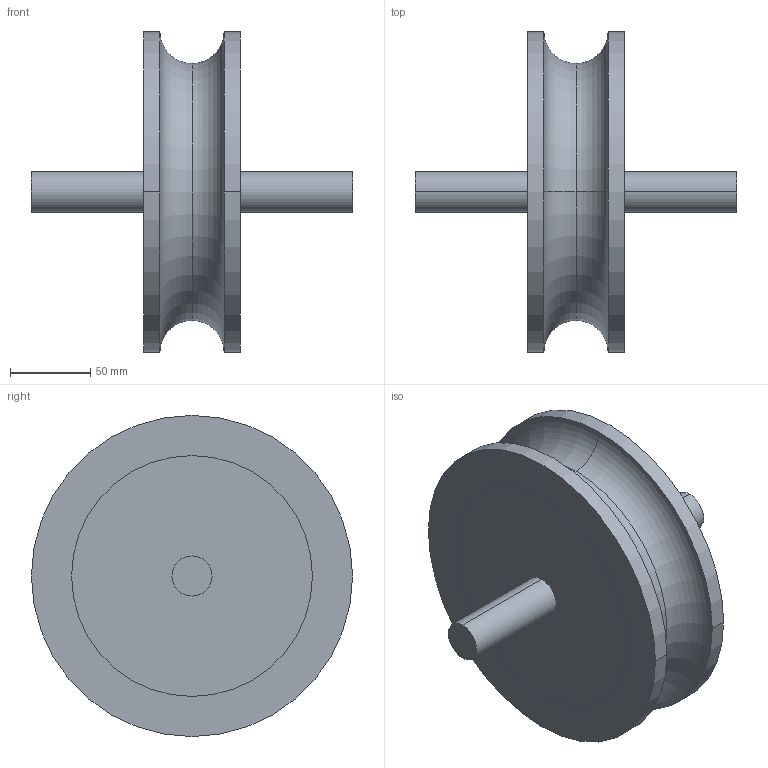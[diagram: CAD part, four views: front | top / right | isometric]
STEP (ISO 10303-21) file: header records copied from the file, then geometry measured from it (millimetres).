
FILE_DESCRIPTION (( 'STEP AP203' ), '1' );
FILE_NAME ('0002035_0_00 unico componente.STEP', '2016-10-20T14:32:56', ( '' ), ( '' ), 'SwSTEP 2.0', 'SolidWorks 2015', '' );
FILE_SCHEMA (( 'CONFIG_CONTROL_DESIGN' ));
Length unit declared in the file: millimetre
Products named in the file (3): 0002035_0_02 unico componente; 0002035_0_00 unico componente; 0002035_0_01 unico componente
Assembly tree (2 placements, depth 2):
  0002035_0_00 unico componente
    0002035_0_01 unico componente
    0002035_0_02 unico componente
Bounding box: 200 x 200 x 200 mm (x, y, z)
Volume: 1592404.1 mm3; surface area: 204097.9 mm2
Topology: 2 solids, 2 shells, 34 faces, 70 edges, 46 vertices
Faces by surface type: cylinder 20, plane 10, torus 4
Entity records: 1237 total; most frequent: DIRECTION 198, CARTESIAN_POINT 155, ORIENTED_EDGE 140, AXIS2_PLACEMENT_3D 89, EDGE_CURVE 70, CIRCLE 50, VERTEX_POINT 46, EDGE_LOOP 42
